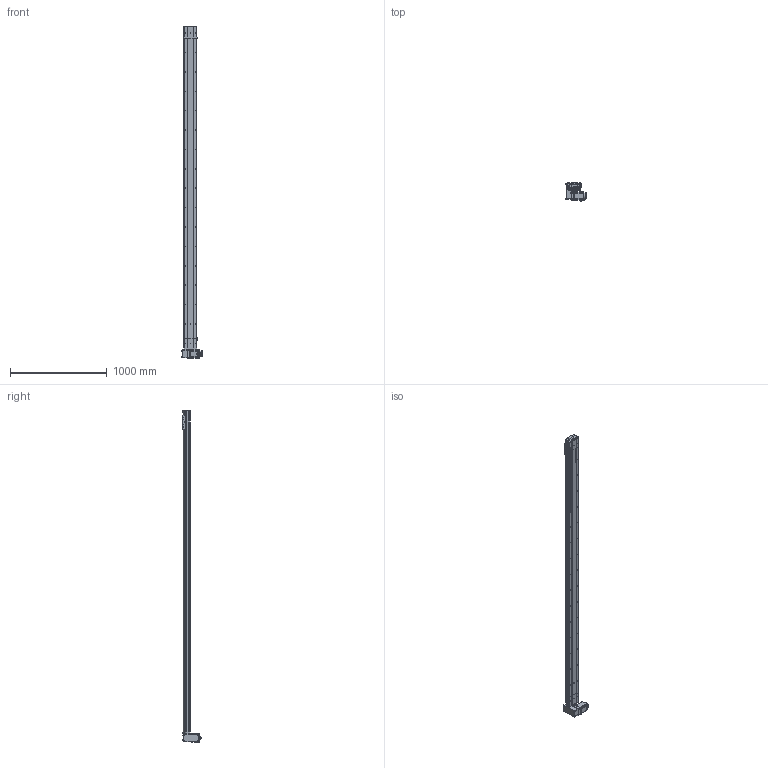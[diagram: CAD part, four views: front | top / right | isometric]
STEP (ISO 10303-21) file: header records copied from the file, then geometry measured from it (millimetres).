
FILE_DESCRIPTION (( 'STEP AP214' ), '1' );
FILE_NAME ('D14 TBH RU S3100.STEP', '2010-06-29T14:47:04', ( 'Conseil Régional Haute-Normandie' ), ( 'Conseil Régional Haute-Normandie' ), 'SwSTEP 2.0', 'SolidWorks 2010', '' );
FILE_SCHEMA (( 'AUTOMOTIVE_DESIGN' ));
Length unit declared in the file: millimetre
Products named in the file (39): poulie head_Default; Arbre+rail head D14; couroie 2_Default; vis M5 L5_Default; codeur 90BLDC100-640; corps 90BLDC100A-640; avant 90BLDC100A-640; vis M5 L16_Default; Arbre+rail tail D14; couvercle D14_Default; couvercle D14 head_Default; Cache arbre_Default; vis M5 L8 90°_Default; Chariot D14; Conecteur2_Default; chariot D14B_Default; Plaque racord D14_Default; D14 TBH RU S3100; Conecteur_Default; D14 couroie L3100_Default; poulie tail_Default; corpl 3100_Default; Couroie_Default; Cvis M5 L70_Default; corp head D14_Default; D14 TB H RU_Default; renvoi RH_Default; Moteur motionking 90BLDC100A-640; plaque de  bout head D14 RU_Default; guide D14; Vis M5 L16-2_Default; Rail + couroie D14 Course 3100 ; couvercle D14 course L3100_Default; Tail D14B_Default; corpl tail D14_Default; plaque de  bout tail D14_Default; Cache_Default; vis M5 L12_Default; tete d''axe haut D14
Assembly tree (68 placements, depth 4):
  D14 TBH RU S3100
    Tail D14B_Default
      vis M5 L16_Default  x2
      vis M5 L12_Default  x4
      couvercle D14_Default
      corpl tail D14_Default
      vis M5 L8 90°_Default  x2
      tete d''axe haut D14
      poulie tail_Default
      Couroie_Default
      plaque de  bout tail D14_Default
      Arbre+rail tail D14
    chariot D14B_Default
      vis M5 L12_Default  x4
      Chariot D14
      guide D14  x2
    D14 TB H RU_Default
      vis M5 L12_Default  x12
      Vis M5 L16-2_Default  x4
      Moteur motionking 90BLDC100A-640
        Conecteur_Default
        avant 90BLDC100A-640
        corps 90BLDC100A-640
        codeur 90BLDC100-640
        Conecteur2_Default
      Arbre+rail head D14
      vis M5 L5_Default  x2
      couvercle D14 head_Default
      poulie head_Default
      Cache_Default  x2
      Cache arbre_Default
      Cvis M5 L70_Default  x4
      couroie 2_Default
      plaque de  bout head D14 RU_Default
      Plaque racord D14_Default
      corp head D14_Default
      renvoi RH_Default
    D14 couroie L3100_Default
      couvercle D14 course L3100_Default
      Rail + couroie D14 Course 3100 
      corpl 3100_Default
Bounding box: 207.2 x 191.1 x 3425.75 mm (x, y, z)
Volume: 12465368.8 mm3; surface area: 4583334 mm2
Topology: 92 solids, 92 shells, 2773 faces, 6755 edges, 4362 vertices
Faces by surface type: plane 1625, cylinder 835, bspline 136, torus 89, cone 84, sphere 4
Entity records: 83384 total; most frequent: CARTESIAN_POINT 24229, ORIENTED_EDGE 10370, DIRECTION 10324, EDGE_CURVE 5185, AXIS2_PLACEMENT_3D 3471, VERTEX_POINT 3412, VECTOR 3382, LINE 3382
